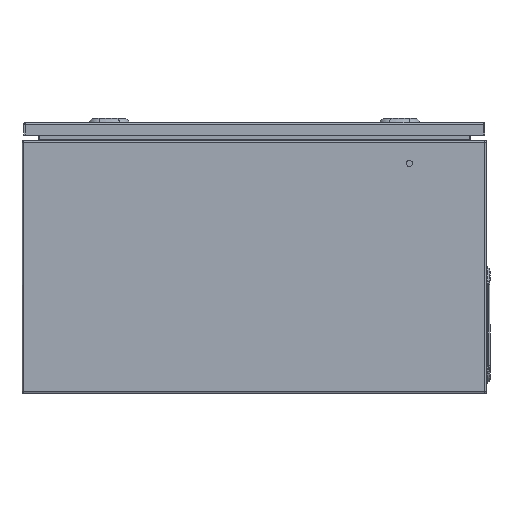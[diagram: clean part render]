
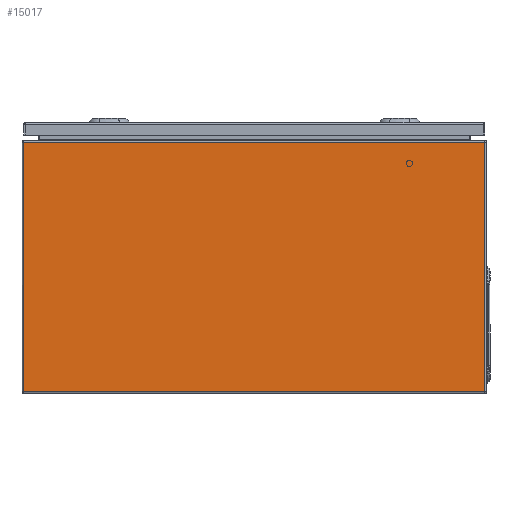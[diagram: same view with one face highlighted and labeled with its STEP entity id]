
A CAD part, left-side view. The second image highlights one B-rep face of the part: STEP entity #15017.
In plain terms, the highlighted planar face has unit normal (-1, 0, 0).
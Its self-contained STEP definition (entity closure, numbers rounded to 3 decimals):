
#1053 = DIRECTION ( 'NONE',  ( 0., -1., 0. ) ) ;
#1412 = ORIENTED_EDGE ( 'NONE', *, *, #7469, .T. ) ;
#2515 = LINE ( 'NONE', #19868, #11650 ) ;
#2773 = CARTESIAN_POINT ( 'NONE',  ( -200., -297.5, 324.5 ) ) ;
#2960 = DIRECTION ( 'NONE',  ( 0., 0., -1. ) ) ;
#5174 = PLANE ( 'NONE',  #19395 ) ;
#5426 = CARTESIAN_POINT ( 'NONE',  ( -200., 300., 324.5 ) ) ;
#7019 = EDGE_LOOP ( 'NONE', ( #8663, #1412, #16797, #14516 ) ) ;
#7020 = FACE_OUTER_BOUND ( 'NONE', #7019, .T. ) ;
#7469 = EDGE_CURVE ( 'NONE', #22915, #20727, #2515, .T. ) ;
#8663 = ORIENTED_EDGE ( 'NONE', *, *, #11505, .T. ) ;
#8860 = CARTESIAN_POINT ( 'NONE',  ( -200., -300., 1.5 ) ) ;
#9075 = DIRECTION ( 'NONE',  ( 1., 0., 0. ) ) ;
#9088 = LINE ( 'NONE', #5426, #19927 ) ;
#9513 = VECTOR ( 'NONE', #2960, 1000. ) ;
#10668 = CARTESIAN_POINT ( 'NONE',  ( -200., 297.5, 2.35 ) ) ;
#11013 = CARTESIAN_POINT ( 'NONE',  ( -200., -297.5, 2.35 ) ) ;
#11505 = EDGE_CURVE ( 'NONE', #12645, #22915, #14132, .T. ) ;
#11650 = VECTOR ( 'NONE', #1053, 1000. ) ;
#11780 = CARTESIAN_POINT ( 'NONE',  ( -200., 297.5, 324.5 ) ) ;
#12173 = CARTESIAN_POINT ( 'NONE',  ( -200., 297.5, 1.5 ) ) ;
#12645 = VERTEX_POINT ( 'NONE', #11780 ) ;
#13444 = CARTESIAN_POINT ( 'NONE',  ( -200., -297.5, 1.5 ) ) ;
#14132 = LINE ( 'NONE', #12173, #9513 ) ;
#14516 = ORIENTED_EDGE ( 'NONE', *, *, #17230, .F. ) ;
#15017 = ADVANCED_FACE ( 'NONE', ( #7020 ), #5174, .F. ) ;
#15542 = VECTOR ( 'NONE', #19123, 1000. ) ;
#16797 = ORIENTED_EDGE ( 'NONE', *, *, #23745, .T. ) ;
#17230 = EDGE_CURVE ( 'NONE', #12645, #22288, #9088, .T. ) ;
#17379 = LINE ( 'NONE', #13444, #15542 ) ;
#19123 = DIRECTION ( 'NONE',  ( 0., 0., 1. ) ) ;
#19395 = AXIS2_PLACEMENT_3D ( 'NONE', #8860, #9075, #22285 ) ;
#19868 = CARTESIAN_POINT ( 'NONE',  ( -200., -300., 2.35 ) ) ;
#19927 = VECTOR ( 'NONE', #22401, 1000. ) ;
#20727 = VERTEX_POINT ( 'NONE', #11013 ) ;
#22285 = DIRECTION ( 'NONE',  ( 0., 0., -1. ) ) ;
#22288 = VERTEX_POINT ( 'NONE', #2773 ) ;
#22401 = DIRECTION ( 'NONE',  ( 0., -1., 0. ) ) ;
#22915 = VERTEX_POINT ( 'NONE', #10668 ) ;
#23745 = EDGE_CURVE ( 'NONE', #20727, #22288, #17379, .T. ) ;
